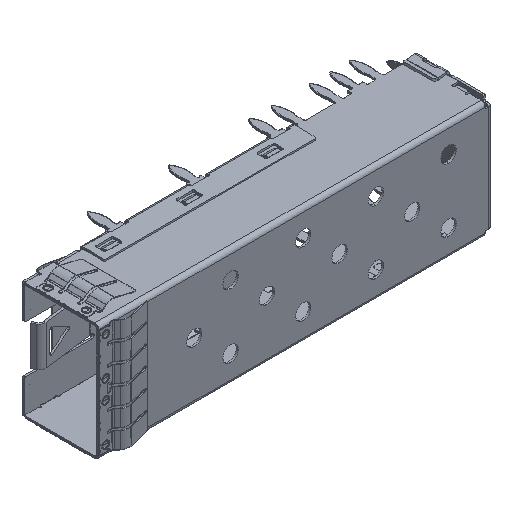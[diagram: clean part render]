
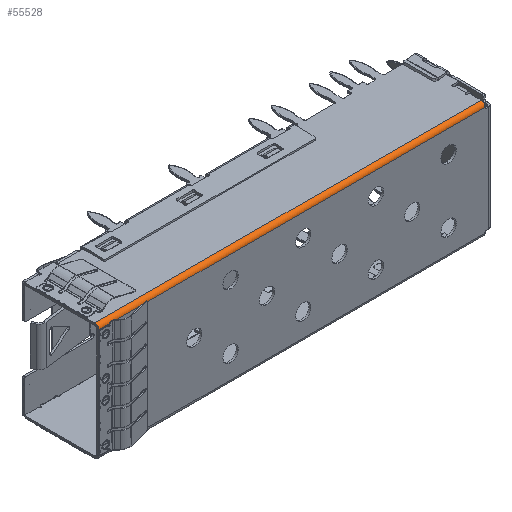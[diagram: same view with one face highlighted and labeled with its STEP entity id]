
A CAD part, isometric view. The second image highlights one B-rep face of the part: STEP entity #55528.
In plain terms, the highlighted cylindrical face has radius 0.5 mm (diameter 1 mm), a partial arc.
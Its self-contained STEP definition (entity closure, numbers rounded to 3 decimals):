
#10140 = AXIS2_PLACEMENT_3D ( 'NONE', #20679, #20686, #20708 ) ;
#10192 = AXIS2_PLACEMENT_3D ( 'NONE', #21157, #21178, #21161 ) ;
#10626 = AXIS2_PLACEMENT_3D ( 'NONE', #29878, #29881, #29862 ) ;
#13678 = LINE ( 'NONE', #17336, #13700 ) ;
#13700 = VECTOR ( 'NONE', #17340, 1000. ) ;
#13861 = LINE ( 'NONE', #17729, #13865 ) ;
#13865 = VECTOR ( 'NONE', #17756, 1000. ) ;
#15984 = CARTESIAN_POINT ( 'NONE',  ( 0., 0.25, 7.25 ) ) ;
#15997 = CARTESIAN_POINT ( 'NONE',  ( 47.82, 0.25, 7.25 ) ) ;
#16204 = CARTESIAN_POINT ( 'NONE',  ( 0., -0.25, 6.75 ) ) ;
#16213 = CARTESIAN_POINT ( 'NONE',  ( 47.82, -0.25, 6.75 ) ) ;
#17336 = CARTESIAN_POINT ( 'NONE',  ( 0.15, 0.25, 7.25 ) ) ;
#17340 = DIRECTION ( 'NONE',  ( -1., 0., 0. ) ) ;
#17729 = CARTESIAN_POINT ( 'NONE',  ( 0.15, -0.25, 6.75 ) ) ;
#17756 = DIRECTION ( 'NONE',  ( -1., 0., 0. ) ) ;
#19124 = CIRCLE ( 'NONE', #10140, 0.5 ) ;
#19296 = CIRCLE ( 'NONE', #10192, 0.5 ) ;
#20679 = CARTESIAN_POINT ( 'NONE',  ( 0., 0.25, 6.75 ) ) ;
#20686 = DIRECTION ( 'NONE',  ( 1., 0., 0. ) ) ;
#20708 = DIRECTION ( 'NONE',  ( 0., 0., 1. ) ) ;
#21157 = CARTESIAN_POINT ( 'NONE',  ( 47.82, 0.25, 6.75 ) ) ;
#21161 = DIRECTION ( 'NONE',  ( 0., 0., 1. ) ) ;
#21178 = DIRECTION ( 'NONE',  ( -1., 0., 0. ) ) ;
#26813 = CYLINDRICAL_SURFACE ( 'NONE', #10626, 0.5 ) ;
#26822 = FACE_OUTER_BOUND ( 'NONE', #52524, .T. ) ;
#29862 = DIRECTION ( 'NONE',  ( 0., 0., 1. ) ) ;
#29878 = CARTESIAN_POINT ( 'NONE',  ( 71.733, 0.25, 6.75 ) ) ;
#29881 = DIRECTION ( 'NONE',  ( -1., 0., 0. ) ) ;
#45631 = VERTEX_POINT ( 'NONE', #15984 ) ;
#45674 = VERTEX_POINT ( 'NONE', #15997 ) ;
#45879 = VERTEX_POINT ( 'NONE', #16213 ) ;
#45904 = VERTEX_POINT ( 'NONE', #16204 ) ;
#47048 = EDGE_CURVE ( 'NONE', #45674, #45631, #13678, .T. ) ;
#47181 = EDGE_CURVE ( 'NONE', #45879, #45904, #13861, .T. ) ;
#47600 = EDGE_CURVE ( 'NONE', #45631, #45904, #19124, .T. ) ;
#47701 = EDGE_CURVE ( 'NONE', #45879, #45674, #19296, .T. ) ;
#49156 = ORIENTED_EDGE ( 'NONE', *, *, #47048, .T. ) ;
#49178 = ORIENTED_EDGE ( 'NONE', *, *, #47701, .T. ) ;
#49180 = ORIENTED_EDGE ( 'NONE', *, *, #47600, .T. ) ;
#49195 = ORIENTED_EDGE ( 'NONE', *, *, #47181, .F. ) ;
#52524 = EDGE_LOOP ( 'NONE', ( #49180, #49195, #49178, #49156 ) ) ;
#55528 = ADVANCED_FACE ( 'NONE', ( #26822 ), #26813, .T. ) ;
